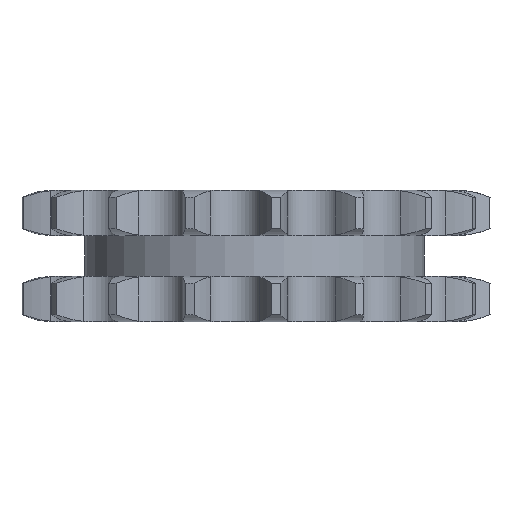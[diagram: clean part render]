
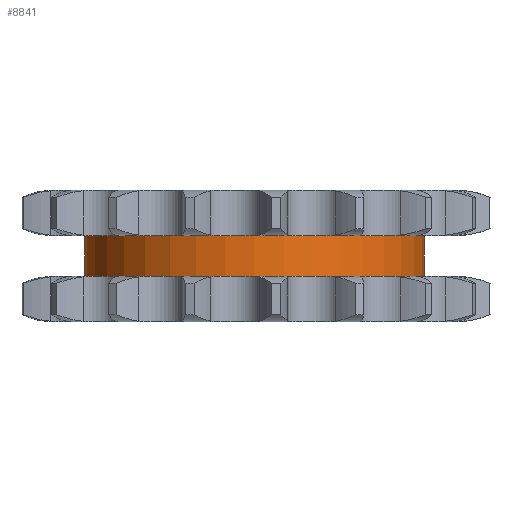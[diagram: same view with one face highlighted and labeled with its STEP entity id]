
A CAD part, left-side view. The second image highlights one B-rep face of the part: STEP entity #8841.
In plain terms, the highlighted cylindrical face has radius 19.918 mm (diameter 39.837 mm), a partial arc.
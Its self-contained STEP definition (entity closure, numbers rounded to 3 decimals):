
#2140=DIRECTION('',(0.,0.,-1.));
#2141=VECTOR('',#2140,4.8);
#2142=CARTESIAN_POINT('',(0.,19.918,2.4));
#2143=LINE('',#2142,#2141);
#2147=CARTESIAN_POINT('',(0.,0.,2.4));
#2148=DIRECTION('',(0.,0.,1.));
#2149=DIRECTION('',(0.,1.,0.));
#2150=AXIS2_PLACEMENT_3D('',#2147,#2148,#2149);
#2155=DIRECTION('',(0.,0.,-1.));
#2156=VECTOR('',#2155,4.8);
#2157=CARTESIAN_POINT('',(0.,-19.918,2.4));
#2158=LINE('',#2157,#2156);
#2162=CARTESIAN_POINT('',(0.,0.,-2.4));
#2163=DIRECTION('',(0.,0.,1.));
#2164=DIRECTION('',(0.,1.,0.));
#2165=AXIS2_PLACEMENT_3D('',#2162,#2163,#2164);
#6193=CARTESIAN_POINT('',(0.,19.918,2.4));
#6194=CARTESIAN_POINT('',(0.,19.918,-2.4));
#6195=VERTEX_POINT('',#6193);
#6196=VERTEX_POINT('',#6194);
#6197=CARTESIAN_POINT('',(0.,-19.918,2.4));
#6198=CARTESIAN_POINT('',(0.,-19.918,-2.4));
#6199=VERTEX_POINT('',#6197);
#6200=VERTEX_POINT('',#6198);
#8829=CARTESIAN_POINT('',(0.,0.,2.64));
#8830=DIRECTION('',(0.,0.,-1.));
#8831=DIRECTION('',(0.,-1.,0.));
#8832=AXIS2_PLACEMENT_3D('',#8829,#8830,#8831);
#8833=CYLINDRICAL_SURFACE('',#8832,19.918);
#8834=ORIENTED_EDGE('',*,*,#8819,.F.);
#8835=ORIENTED_EDGE('',*,*,#8809,.T.);
#8836=ORIENTED_EDGE('',*,*,#8823,.T.);
#8838=ORIENTED_EDGE('',*,*,#8837,.F.);
#8839=EDGE_LOOP('',(#8834,#8835,#8836,#8838));
#8840=FACE_OUTER_BOUND('',#8839,.F.);
#8841=ADVANCED_FACE('',(#8840),#8833,.T.);
#2151=CIRCLE('',#2150,19.918);
#2166=CIRCLE('',#2165,19.918);
#8809=EDGE_CURVE('',#6195,#6199,#2151,.T.);
#8819=EDGE_CURVE('',#6195,#6196,#2143,.T.);
#8823=EDGE_CURVE('',#6199,#6200,#2158,.T.);
#8837=EDGE_CURVE('',#6196,#6200,#2166,.T.);
